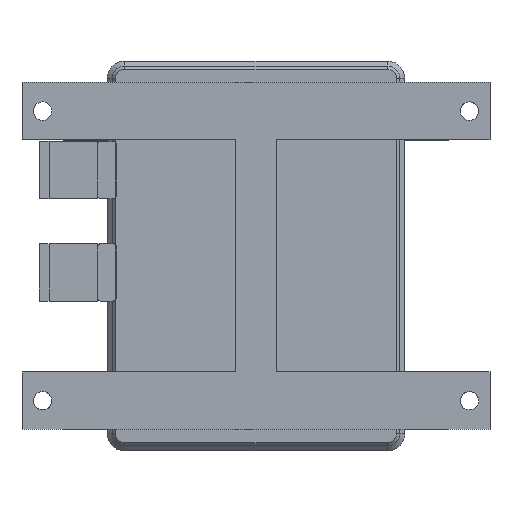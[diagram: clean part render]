
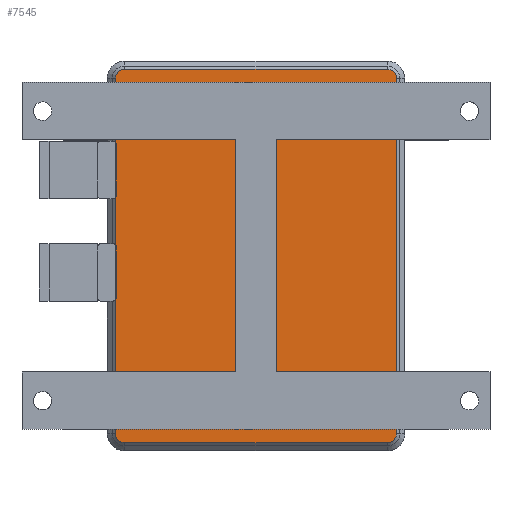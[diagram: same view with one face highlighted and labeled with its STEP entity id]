
A CAD part, top view. The second image highlights one B-rep face of the part: STEP entity #7545.
In plain terms, the highlighted planar face has unit normal (0, 0, 1).
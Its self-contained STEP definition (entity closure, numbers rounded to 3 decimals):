
#12=DIRECTION('',(1.0,0.0,0.0));
#1481=DIRECTION('',(0.0,-1.0,0.0));
#1517=DIRECTION('',(-1.0,0.0,0.0));
#1590=DIRECTION('',(0.0,1.0,0.0));
#3397=CARTESIAN_POINT('',(14.1,-35.9,38.));
#3399=VERTEX_POINT('',#3397);
#3402=VECTOR('',#1590,3.2);
#3403=CARTESIAN_POINT('',(14.1,-39.1,38.));
#3404=LINE('',#3403,#3402);
#3405=VERTEX_POINT('',#3403);
#3406=EDGE_CURVE('',#3405,#3399,#3404,.T.);
#3418=VECTOR('',#12,1.8);
#3419=LINE('',#3403,#3418);
#3420=CARTESIAN_POINT('',(15.9,-39.1,38.));
#3421=VERTEX_POINT('',#3420);
#3422=EDGE_CURVE('',#3405,#3421,#3419,.T.);
#3439=LINE('',#3420,#3402);
#3440=CARTESIAN_POINT('',(15.9,-35.9,38.));
#3441=VERTEX_POINT('',#3440);
#3442=EDGE_CURVE('',#3421,#3441,#3439,.T.);
#3462=VECTOR('',#1517,1.8);
#3463=LINE('',#3440,#3462);
#3464=EDGE_CURVE('',#3441,#3399,#3463,.T.);
#3473=CARTESIAN_POINT('',(14.1,-30.9,38.));
#3477=VERTEX_POINT('',#3473);
#3480=VECTOR('',#1481,3.2);
#3481=LINE('',#3473,#3480);
#3482=CARTESIAN_POINT('',(14.1,-34.1,38.));
#3483=VERTEX_POINT('',#3482);
#3484=EDGE_CURVE('',#3477,#3483,#3481,.T.);
#3501=LINE('',#3482,#3418);
#3502=CARTESIAN_POINT('',(15.9,-34.1,38.));
#3503=VERTEX_POINT('',#3502);
#3504=EDGE_CURVE('',#3483,#3503,#3501,.T.);
#3526=CARTESIAN_POINT('',(15.9,-30.9,38.));
#3527=LINE('',#3526,#3480);
#3528=VERTEX_POINT('',#3526);
#3529=EDGE_CURVE('',#3528,#3503,#3527,.T.);
#3544=LINE('',#3473,#3418);
#3545=EDGE_CURVE('',#3477,#3528,#3544,.T.);
#3561=CARTESIAN_POINT('',(-15.9,-35.9,38.));
#3563=VERTEX_POINT('',#3561);
#3566=CARTESIAN_POINT('',(-15.9,-39.1,38.));
#3567=LINE('',#3566,#3402);
#3568=VERTEX_POINT('',#3566);
#3569=EDGE_CURVE('',#3568,#3563,#3567,.T.);
#3586=LINE('',#3566,#3418);
#3587=CARTESIAN_POINT('',(-14.1,-39.1,38.));
#3588=VERTEX_POINT('',#3587);
#3589=EDGE_CURVE('',#3568,#3588,#3586,.T.);
#3601=CARTESIAN_POINT('',(-14.1,-35.9,38.));
#3602=LINE('',#3601,#3480);
#3603=VERTEX_POINT('',#3601);
#3604=EDGE_CURVE('',#3603,#3588,#3602,.T.);
#3624=LINE('',#3601,#3462);
#3625=EDGE_CURVE('',#3603,#3563,#3624,.T.);
#3641=CARTESIAN_POINT('',(-15.9,-30.9,38.));
#3643=VERTEX_POINT('',#3641);
#3646=CARTESIAN_POINT('',(-15.9,-34.1,38.));
#3647=LINE('',#3646,#3402);
#3648=VERTEX_POINT('',#3646);
#3649=EDGE_CURVE('',#3648,#3643,#3647,.T.);
#3661=CARTESIAN_POINT('',(-14.1,-34.1,38.));
#3662=LINE('',#3661,#3462);
#3663=VERTEX_POINT('',#3661);
#3664=EDGE_CURVE('',#3663,#3648,#3662,.T.);
#3681=LINE('',#3661,#3402);
#3682=CARTESIAN_POINT('',(-14.1,-30.9,38.));
#3683=VERTEX_POINT('',#3682);
#3684=EDGE_CURVE('',#3663,#3683,#3681,.T.);
#3701=LINE('',#3682,#3462);
#3702=EDGE_CURVE('',#3683,#3643,#3701,.T.);
#5308=CARTESIAN_POINT('',(-34.25,43.3,38.));
#5310=VERTEX_POINT('',#5308);
#5316=CARTESIAN_POINT('',(-32.05,45.5,38.));
#5318=VERTEX_POINT('',#5316);
#5321=CARTESIAN_POINT('',(-32.05,45.5,38.));
#5322=CARTESIAN_POINT('',(-32.47,45.5,38.));
#5323=CARTESIAN_POINT('',(-33.283,45.178,38.));
#5324=CARTESIAN_POINT('',(-33.928,44.533,38.));
#5325=CARTESIAN_POINT('',(-34.25,43.72,38.));
#5326=(BOUNDED_CURVE()B_SPLINE_CURVE(2,(#5308,#5325,#5324,#5323,#5322,#5321),.UNSPECIFIED.,.U.,.U.)B_SPLINE_CURVE_WITH_KNOTS((3,1,1,1,3),(0.0,0.25,0.5,0.75,1.0),.UNSPECIFIED.)CURVE()GEOMETRIC_REPRESENTATION_ITEM()RATIONAL_B_SPLINE_CURVE((1.0,0.927,0.854,0.854,0.927,1.0))REPRESENTATION_ITEM(''));
#5327=EDGE_CURVE('',#5310,#5318,#5326,.T.);
#5339=CARTESIAN_POINT('',(32.05,45.5,38.));
#5341=VERTEX_POINT('',#5339);
#5347=CARTESIAN_POINT('',(34.25,43.3,38.));
#5349=VERTEX_POINT('',#5347);
#5352=CARTESIAN_POINT('',(34.25,43.3,38.));
#5353=CARTESIAN_POINT('',(34.25,43.72,38.));
#5354=CARTESIAN_POINT('',(33.928,44.533,38.));
#5355=CARTESIAN_POINT('',(33.283,45.178,38.));
#5356=CARTESIAN_POINT('',(32.47,45.5,38.));
#5357=(BOUNDED_CURVE()B_SPLINE_CURVE(2,(#5339,#5356,#5355,#5354,#5353,#5352),.UNSPECIFIED.,.U.,.U.)B_SPLINE_CURVE_WITH_KNOTS((3,1,1,1,3),(0.0,0.25,0.5,0.75,1.0),.UNSPECIFIED.)CURVE()GEOMETRIC_REPRESENTATION_ITEM()RATIONAL_B_SPLINE_CURVE((1.0,0.927,0.854,0.854,0.927,1.0))REPRESENTATION_ITEM(''));
#5358=EDGE_CURVE('',#5341,#5349,#5357,.T.);
#5371=DIRECTION('',(1.0,0.,0.0));
#5372=VECTOR('',#5371,64.1);
#5373=LINE('',#5316,#5372);
#5374=EDGE_CURVE('',#5318,#5341,#5373,.T.);
#7475=DIRECTION('',(-0.0,0.,1.0));
#7476=CARTESIAN_POINT('',(-34.25,-45.5,38.));
#7477=AXIS2_PLACEMENT_3D('',#7476,#7475,#12);
#7478=PLANE('',#7477);
#7479=ORIENTED_EDGE('',*,*,#3422,.F.);
#7480=ORIENTED_EDGE('',*,*,#3442,.F.);
#7481=ORIENTED_EDGE('',*,*,#3464,.F.);
#7482=ORIENTED_EDGE('',*,*,#3406,.T.);
#7483=EDGE_LOOP('',(#7482,#7481,#7480,#7479));
#7484=FACE_BOUND('',#7483,.T.);
#7485=ORIENTED_EDGE('',*,*,#3484,.F.);
#7486=ORIENTED_EDGE('',*,*,#3504,.F.);
#7487=ORIENTED_EDGE('',*,*,#3529,.T.);
#7488=ORIENTED_EDGE('',*,*,#3545,.T.);
#7489=EDGE_LOOP('',(#7488,#7487,#7486,#7485));
#7490=FACE_BOUND('',#7489,.T.);
#7491=ORIENTED_EDGE('',*,*,#3589,.F.);
#7492=ORIENTED_EDGE('',*,*,#3604,.T.);
#7493=ORIENTED_EDGE('',*,*,#3625,.F.);
#7494=ORIENTED_EDGE('',*,*,#3569,.T.);
#7495=EDGE_LOOP('',(#7494,#7493,#7492,#7491));
#7496=FACE_BOUND('',#7495,.T.);
#7497=ORIENTED_EDGE('',*,*,#3664,.T.);
#7498=ORIENTED_EDGE('',*,*,#3684,.F.);
#7499=ORIENTED_EDGE('',*,*,#3702,.F.);
#7500=ORIENTED_EDGE('',*,*,#3649,.T.);
#7501=EDGE_LOOP('',(#7500,#7499,#7498,#7497));
#7502=FACE_BOUND('',#7501,.T.);
#7503=ORIENTED_EDGE('',*,*,#5327,.F.);
#7504=ORIENTED_EDGE('',*,*,#5374,.F.);
#7505=ORIENTED_EDGE('',*,*,#5358,.F.);
#7506=DIRECTION('',(0.,-1.0,0.));
#7507=VECTOR('',#7506,86.6);
#7508=LINE('',#5347,#7507);
#7509=CARTESIAN_POINT('',(34.25,-43.3,38.));
#7510=VERTEX_POINT('',#7509);
#7511=EDGE_CURVE('',#5349,#7510,#7508,.T.);
#7512=ORIENTED_EDGE('',*,*,#7511,.F.);
#7513=CARTESIAN_POINT('',(32.05,-45.5,38.));
#7514=CARTESIAN_POINT('',(32.47,-45.5,38.));
#7515=CARTESIAN_POINT('',(33.283,-45.178,38.));
#7516=CARTESIAN_POINT('',(33.928,-44.533,38.));
#7517=CARTESIAN_POINT('',(34.25,-43.72,38.));
#7518=(BOUNDED_CURVE()B_SPLINE_CURVE(2,(#7509,#7517,#7516,#7515,#7514,#7513),.UNSPECIFIED.,.U.,.U.)B_SPLINE_CURVE_WITH_KNOTS((3,1,1,1,3),(0.0,0.25,0.5,0.75,1.0),.UNSPECIFIED.)CURVE()GEOMETRIC_REPRESENTATION_ITEM()RATIONAL_B_SPLINE_CURVE((1.0,0.927,0.854,0.854,0.927,1.0))REPRESENTATION_ITEM(''));
#7519=VERTEX_POINT('',#7513);
#7520=EDGE_CURVE('',#7510,#7519,#7518,.T.);
#7521=ORIENTED_EDGE('',*,*,#7520,.F.);
#7522=DIRECTION('',(-1.0,0.,0.0));
#7523=VECTOR('',#7522,64.1);
#7524=LINE('',#7513,#7523);
#7525=CARTESIAN_POINT('',(-32.05,-45.5,38.));
#7526=VERTEX_POINT('',#7525);
#7527=EDGE_CURVE('',#7519,#7526,#7524,.T.);
#7528=ORIENTED_EDGE('',*,*,#7527,.F.);
#7529=CARTESIAN_POINT('',(-34.25,-43.3,38.));
#7530=CARTESIAN_POINT('',(-34.25,-43.72,38.));
#7531=CARTESIAN_POINT('',(-33.928,-44.533,38.));
#7532=CARTESIAN_POINT('',(-33.283,-45.178,38.));
#7533=CARTESIAN_POINT('',(-32.47,-45.5,38.));
#7534=(BOUNDED_CURVE()B_SPLINE_CURVE(2,(#7525,#7533,#7532,#7531,#7530,#7529),.UNSPECIFIED.,.U.,.U.)B_SPLINE_CURVE_WITH_KNOTS((3,1,1,1,3),(0.0,0.25,0.5,0.75,1.0),.UNSPECIFIED.)CURVE()GEOMETRIC_REPRESENTATION_ITEM()RATIONAL_B_SPLINE_CURVE((1.0,0.927,0.854,0.854,0.927,1.0))REPRESENTATION_ITEM(''));
#7535=VERTEX_POINT('',#7529);
#7536=EDGE_CURVE('',#7526,#7535,#7534,.T.);
#7537=ORIENTED_EDGE('',*,*,#7536,.F.);
#7538=DIRECTION('',(0.,1.0,0.));
#7539=VECTOR('',#7538,86.6);
#7540=LINE('',#7529,#7539);
#7541=EDGE_CURVE('',#7535,#5310,#7540,.T.);
#7542=ORIENTED_EDGE('',*,*,#7541,.F.);
#7543=EDGE_LOOP('',(#7542,#7537,#7528,#7521,#7512,#7505,#7504,#7503));
#7544=FACE_BOUND('',#7543,.T.);
#7545=ADVANCED_FACE('',(#7544,#7502,#7496,#7490,#7484),#7478,.T.);
